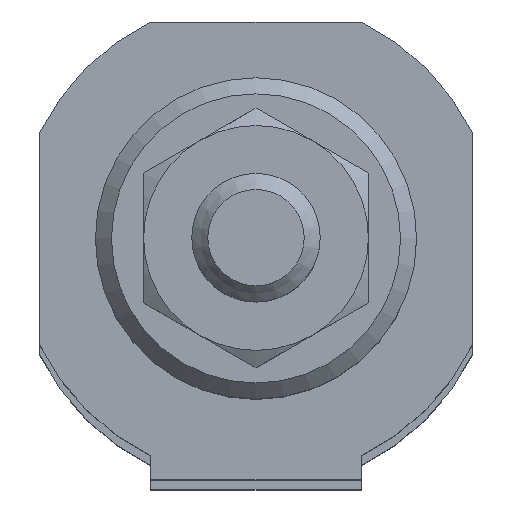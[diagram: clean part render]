
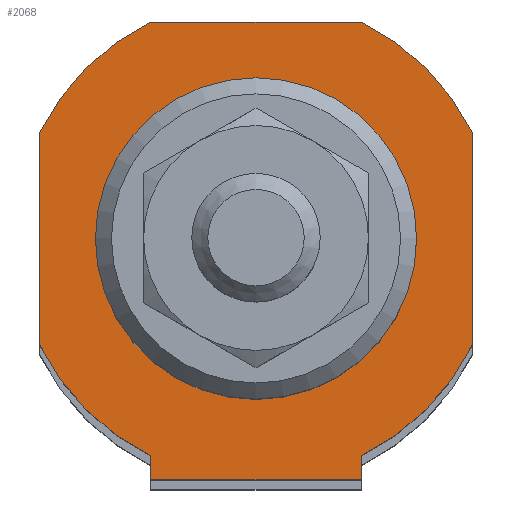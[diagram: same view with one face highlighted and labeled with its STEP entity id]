
A CAD part, top view. The second image highlights one B-rep face of the part: STEP entity #2068.
In plain terms, the highlighted planar face has unit normal (0, 0, 1).
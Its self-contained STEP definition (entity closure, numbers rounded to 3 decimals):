
#1123=CARTESIAN_POINT('',(6.538,-15.0,384.));
#1124=VERTEX_POINT('',#1123);
#1125=CARTESIAN_POINT('',(-6.538,-15.0,384.));
#1126=VERTEX_POINT('',#1125);
#1127=CARTESIAN_POINT('',(6.538,-15.0,384.));
#1128=DIRECTION('',(-1.0,0.0,0.0));
#1129=VECTOR('',#1128,13.077);
#1130=LINE('',#1127,#1129);
#1131=EDGE_CURVE('',#1124,#1126,#1130,.T.);
#1420=CARTESIAN_POINT('',(-6.538,-13.5,384.));
#1421=VERTEX_POINT('',#1420);
#1435=CARTESIAN_POINT('',(-6.538,-13.5,384.));
#1436=DIRECTION('',(0.0,-1.0,0.0));
#1437=VECTOR('',#1436,1.5);
#1438=LINE('',#1435,#1437);
#1439=EDGE_CURVE('',#1421,#1126,#1438,.T.);
#1451=CARTESIAN_POINT('',(6.538,-13.5,384.));
#1452=VERTEX_POINT('',#1451);
#1459=CARTESIAN_POINT('',(6.538,-13.5,384.));
#1460=DIRECTION('',(0.0,-1.0,0.0));
#1461=VECTOR('',#1460,1.5);
#1462=LINE('',#1459,#1461);
#1463=EDGE_CURVE('',#1452,#1124,#1462,.T.);
#1788=CARTESIAN_POINT('',(10.0,0.,384.));
#1789=VERTEX_POINT('',#1788);
#1790=CARTESIAN_POINT('',(0.,0.,384.));
#1791=DIRECTION('',(0.0,0.0,-1.0));
#1792=DIRECTION('',(-1.0,0.0,0.0));
#1793=AXIS2_PLACEMENT_3D('',#1790,#1791,#1792);
#1794=CIRCLE('',#1793,10.0);
#1795=EDGE_CURVE('',#1789,#1789,#1794,.T.);
#1888=CARTESIAN_POINT('',(6.538,13.5,384.));
#1889=VERTEX_POINT('',#1888);
#1890=CARTESIAN_POINT('',(13.5,6.538,384.));
#1891=VERTEX_POINT('',#1890);
#1892=CARTESIAN_POINT('',(0.0,0.0,384.0));
#1893=DIRECTION('',(0.0,0.0,-1.));
#1894=DIRECTION('',(-0.9,-0.436,0.0));
#1895=AXIS2_PLACEMENT_3D('',#1892,#1893,#1894);
#1896=CIRCLE('',#1895,15.);
#1897=EDGE_CURVE('',#1889,#1891,#1896,.T.);
#1920=CARTESIAN_POINT('',(13.5,-6.538,384.));
#1921=VERTEX_POINT('',#1920);
#1922=CARTESIAN_POINT('',(13.5,6.538,384.));
#1923=DIRECTION('',(0.0,-1.0,0.0));
#1924=VECTOR('',#1923,13.077);
#1925=LINE('',#1922,#1924);
#1926=EDGE_CURVE('',#1891,#1921,#1925,.T.);
#1944=CARTESIAN_POINT('',(0.0,0.0,384.0));
#1945=DIRECTION('',(0.0,0.0,-1.));
#1946=DIRECTION('',(-0.436,0.9,0.0));
#1947=AXIS2_PLACEMENT_3D('',#1944,#1945,#1946);
#1948=CIRCLE('',#1947,15.);
#1949=EDGE_CURVE('',#1921,#1452,#1948,.T.);
#1962=CARTESIAN_POINT('',(-13.5,-6.538,384.));
#1963=VERTEX_POINT('',#1962);
#1964=CARTESIAN_POINT('',(0.0,0.0,384.0));
#1965=DIRECTION('',(0.0,0.0,-1.));
#1966=DIRECTION('',(0.9,0.436,0.0));
#1967=AXIS2_PLACEMENT_3D('',#1964,#1965,#1966);
#1968=CIRCLE('',#1967,15.);
#1969=EDGE_CURVE('',#1421,#1963,#1968,.T.);
#1987=CARTESIAN_POINT('',(-13.5,6.538,384.));
#1988=VERTEX_POINT('',#1987);
#1989=CARTESIAN_POINT('',(-13.5,-6.538,384.));
#1990=DIRECTION('',(0.0,1.0,0.0));
#1991=VECTOR('',#1990,13.077);
#1992=LINE('',#1989,#1991);
#1993=EDGE_CURVE('',#1963,#1988,#1992,.T.);
#2011=CARTESIAN_POINT('',(-6.538,13.5,384.));
#2012=VERTEX_POINT('',#2011);
#2013=CARTESIAN_POINT('',(0.0,0.0,384.0));
#2014=DIRECTION('',(0.0,0.0,-1.));
#2015=DIRECTION('',(0.436,-0.9,0.0));
#2016=AXIS2_PLACEMENT_3D('',#2013,#2014,#2015);
#2017=CIRCLE('',#2016,15.);
#2018=EDGE_CURVE('',#1988,#2012,#2017,.T.);
#2036=CARTESIAN_POINT('',(-6.538,13.5,384.));
#2037=DIRECTION('',(1.0,0.0,0.0));
#2038=VECTOR('',#2037,13.077);
#2039=LINE('',#2036,#2038);
#2040=EDGE_CURVE('',#2012,#1889,#2039,.T.);
#2048=CARTESIAN_POINT('',(0.,0.0,384.));
#2049=DIRECTION('',(0.0,0.0,1.0));
#2050=DIRECTION('',(1.0,0.0,0.0));
#2051=AXIS2_PLACEMENT_3D('',#2048,#2049,#2050);
#2052=PLANE('',#2051);
#2053=ORIENTED_EDGE('',*,*,#1897,.F.);
#2054=ORIENTED_EDGE('',*,*,#2040,.F.);
#2055=ORIENTED_EDGE('',*,*,#2018,.F.);
#2056=ORIENTED_EDGE('',*,*,#1993,.F.);
#2057=ORIENTED_EDGE('',*,*,#1969,.F.);
#2058=ORIENTED_EDGE('',*,*,#1439,.T.);
#2059=ORIENTED_EDGE('',*,*,#1131,.F.);
#2060=ORIENTED_EDGE('',*,*,#1463,.F.);
#2061=ORIENTED_EDGE('',*,*,#1949,.F.);
#2062=ORIENTED_EDGE('',*,*,#1926,.F.);
#2063=EDGE_LOOP('',(#2053,#2054,#2055,#2056,#2057,#2058,#2059,#2060,#2061,#2062));
#2064=FACE_OUTER_BOUND('',#2063,.T.);
#2065=ORIENTED_EDGE('',*,*,#1795,.T.);
#2066=EDGE_LOOP('',(#2065));
#2067=FACE_BOUND('',#2066,.T.);
#2068=ADVANCED_FACE('',(#2064,#2067),#2052,.T.);
